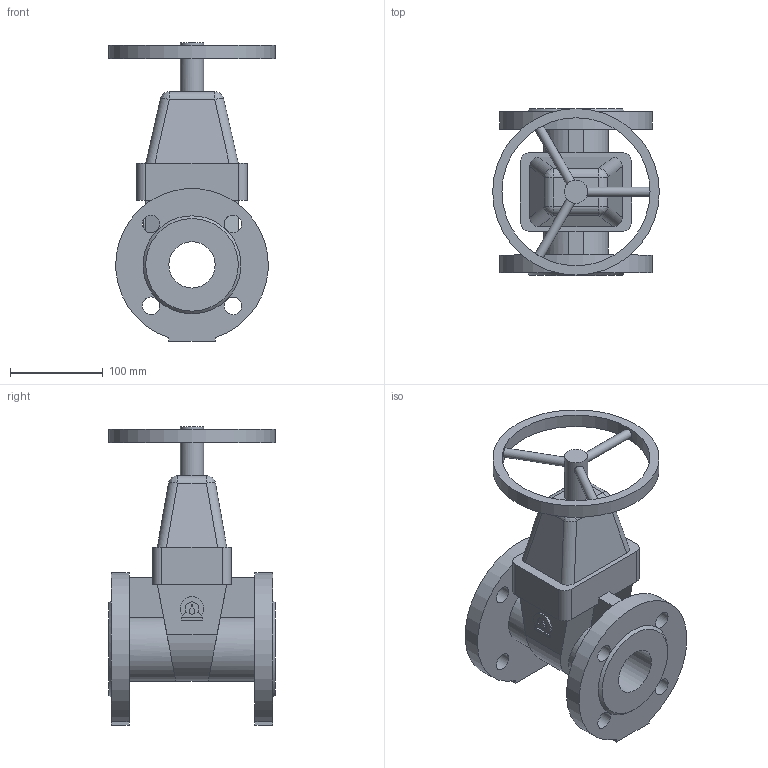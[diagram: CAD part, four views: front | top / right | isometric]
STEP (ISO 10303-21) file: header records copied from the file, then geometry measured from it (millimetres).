
FILE_DESCRIPTION(('STEP AP203'), '1');
FILE_NAME('Çàäâèæêà 47GV DN50 PN10_PN16_L180_W180 ñ ìàõîâèêîì', '', ('UNSPECIFIED'), ('UNSPECIFIED'), 'ASCON STEP Converter 1.6', 'ASCON Math Kernel', '');
FILE_SCHEMA(('CONFIG_CONTROL_DESIGN'));
Length unit declared in the file: millimetre
Bounding box: 180 x 180 x 322.5 mm (x, y, z)
Volume: 2300293.5 mm3; surface area: 256357.4 mm2
Topology: 1 solids, 1 shells, 94 faces, 249 edges, 156 vertices
Faces by surface type: plane 49, cylinder 39, bspline 4, cone 2
Full cylindrical faces by diameter (mm): 10 x3, 19 x8, 25 x1, 50 x1, 160 x1, 180 x1
Entity records: 4496 total; most frequent: CARTESIAN_POINT 1507, DIRECTION 444, ORIENTED_EDGE 424, EDGE_CURVE 212, AXIS2_PLACEMENT_3D 159, VERTEX_POINT 148, EDGE_LOOP 146, LINE 126
